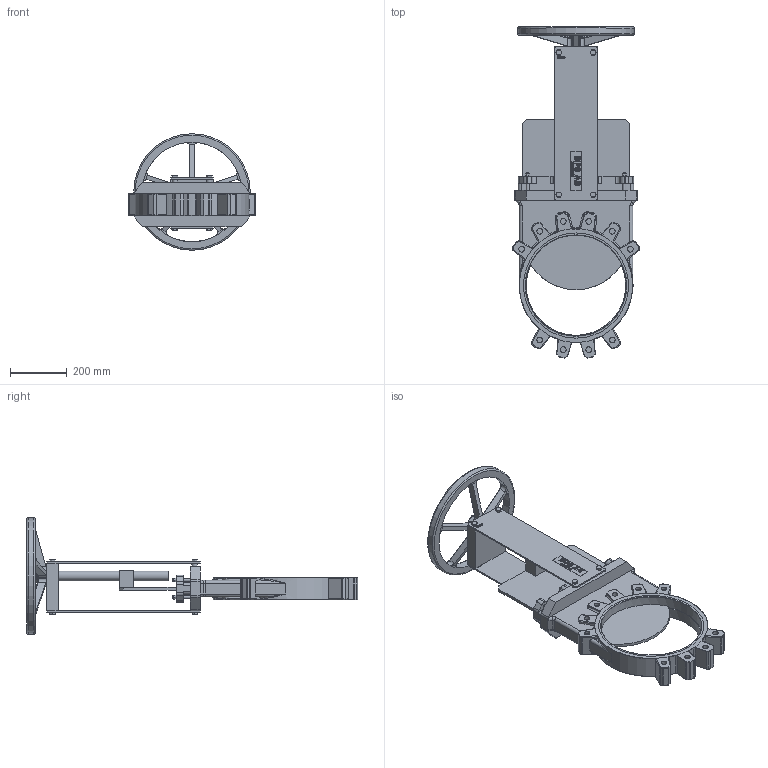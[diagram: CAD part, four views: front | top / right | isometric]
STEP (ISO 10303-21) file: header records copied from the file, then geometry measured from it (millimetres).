
FILE_DESCRIPTION((''),'2;1');
FILE_NAME('Z:\Kunder\BPS\BPS Produkter\BPS 2015\DN 350\Ritningar\BPS 2015350.stp','2012-12-28T10:57:40',('James'),(''),'Autodesk Inventor 2013','Autodesk Inventor 2013','');
FILE_SCHEMA(('AUTOMOTIVE_DESIGN { 1 2 10303 214 0 1 1 1 }'));
Length unit declared in the file: millimetre
Products named in the file (2): BPS 2015350 (SubstituteLevelofDetail1); BPS 2015350
Assembly tree (1 placements, depth 2):
  BPS 2015350 (SubstituteLevelofDetail1)
    BPS 2015350
Bounding box: 444.34 x 1167.78 x 410 mm (x, y, z)
Volume: 14868086.8 mm3; surface area: 1549542.9 mm2
Topology: 2 solids, 14 shells, 1593 faces, 3881 edges, 2423 vertices
Faces by surface type: plane 719, cylinder 423, bspline 239, torus 87, sphere 68, cone 57
Full cylindrical faces by diameter (mm): 8 x2, 10 x20, 12 x10, 13 x8, 16.63 x8, 20 x22, 35 x3, 350 x2, 355 x1, 410 x1
Entity records: 55580 total; most frequent: CARTESIAN_POINT 18269, ORIENTED_EDGE 7508, DIRECTION 6913, EDGE_CURVE 3754, AXIS2_PLACEMENT_3D 2434, VERTEX_POINT 2399, VECTOR 2045, LINE 2045
